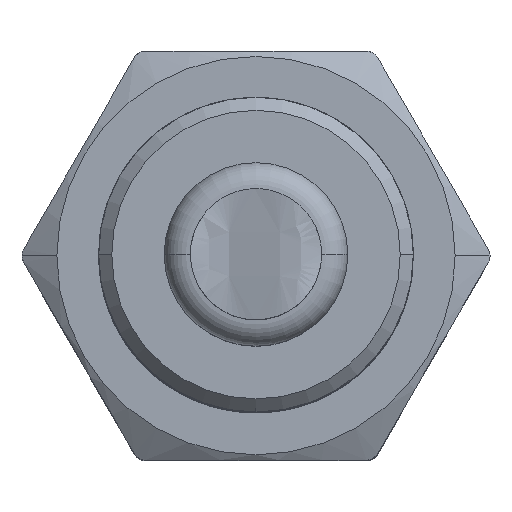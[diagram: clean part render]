
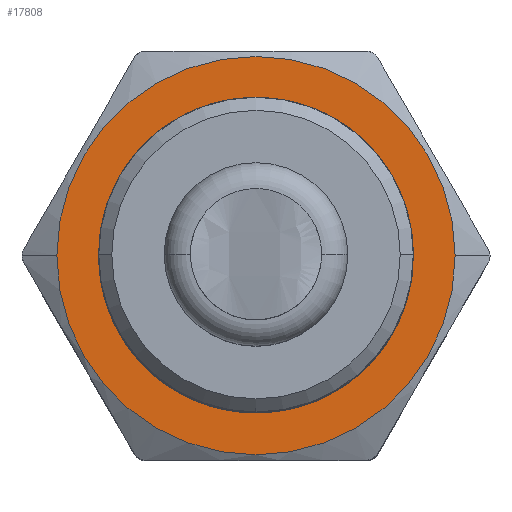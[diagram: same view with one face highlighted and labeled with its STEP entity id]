
A CAD part, top view. The second image highlights one B-rep face of the part: STEP entity #17808.
In plain terms, the highlighted planar face has unit normal (0, 0, 1).
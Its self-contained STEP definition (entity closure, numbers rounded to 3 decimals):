
#16777=CARTESIAN_POINT('',(0.,0.,15.));
#16778=DIRECTION('',(0.,0.,1.));
#16779=DIRECTION('',(-1.,0.,0.));
#16780=AXIS2_PLACEMENT_3D('',#16777,#16778,#16779);
#16785=CARTESIAN_POINT('',(0.,0.,15.));
#16786=DIRECTION('',(0.,0.,1.));
#16787=DIRECTION('',(1.,0.,0.));
#16788=AXIS2_PLACEMENT_3D('',#16785,#16786,#16787);
#16793=CARTESIAN_POINT('',(0.,-5.541,15.));
#16794=CARTESIAN_POINT('',(-0.266,-5.554,15.));
#16795=CARTESIAN_POINT('',(-0.794,-5.542,15.));
#16796=CARTESIAN_POINT('',(-1.578,-5.412,15.));
#16797=CARTESIAN_POINT('',(-2.328,-5.176,15.));
#16798=CARTESIAN_POINT('',(-3.053,-4.831,15.));
#16799=CARTESIAN_POINT('',(-3.727,-4.384,15.));
#16800=CARTESIAN_POINT('',(-4.347,-3.831,15.));
#16801=CARTESIAN_POINT('',(-4.878,-3.197,15.));
#16802=CARTESIAN_POINT('',(-5.289,-2.539,15.));
#16803=CARTESIAN_POINT('',(-5.595,-1.87,15.));
#16804=CARTESIAN_POINT('',(-5.812,-1.189,15.));
#16805=CARTESIAN_POINT('',(-5.947,-0.479,15.));
#16806=CARTESIAN_POINT('',(-5.995,0.26,15.));
#16807=CARTESIAN_POINT('',(-5.966,0.752,15.));
#16808=CARTESIAN_POINT('',(-5.936,0.999,15.));
#16813=DIRECTION('',(0.,1.,0.));
#16814=VECTOR('',#16813,0.041);
#16815=CARTESIAN_POINT('',(0.,-5.541,15.));
#16816=LINE('',#16815,#16814);
#16820=CARTESIAN_POINT('',(0.,0.,15.));
#16821=DIRECTION('',(0.,0.,1.));
#16822=DIRECTION('',(0.,-1.,0.));
#16823=AXIS2_PLACEMENT_3D('',#16820,#16821,#16822);
#16828=CARTESIAN_POINT('',(-5.936,0.999,15.));
#16829=CARTESIAN_POINT('',(-5.876,1.277,15.));
#16830=CARTESIAN_POINT('',(-5.718,1.819,15.));
#16831=CARTESIAN_POINT('',(-5.367,2.595,15.));
#16832=CARTESIAN_POINT('',(-4.91,3.312,15.));
#16833=CARTESIAN_POINT('',(-4.361,3.948,15.));
#16834=CARTESIAN_POINT('',(-3.725,4.502,15.));
#16835=CARTESIAN_POINT('',(-3.023,4.954,15.));
#16836=CARTESIAN_POINT('',(-2.254,5.305,15.));
#16837=CARTESIAN_POINT('',(-1.441,5.539,15.));
#16838=CARTESIAN_POINT('',(-0.614,5.65,15.));
#16839=CARTESIAN_POINT('',(0.222,5.638,15.));
#16840=CARTESIAN_POINT('',(1.034,5.505,15.));
#16841=CARTESIAN_POINT('',(1.82,5.254,15.));
#16842=CARTESIAN_POINT('',(2.308,5.015,15.));
#16843=CARTESIAN_POINT('',(2.544,4.876,15.));
#17510=CARTESIAN_POINT('',(-7.595,0.,15.));
#17511=CARTESIAN_POINT('',(7.595,0.,15.));
#17512=VERTEX_POINT('',#17510);
#17513=VERTEX_POINT('',#17511);
#17551=VERTEX_POINT('',#16793);
#17552=VERTEX_POINT('',#16808);
#17553=VERTEX_POINT('',#16843);
#17565=CARTESIAN_POINT('',(0.,-5.5,15.));
#17566=VERTEX_POINT('',#17565);
#17789=CARTESIAN_POINT('',(0.,0.,15.));
#17790=DIRECTION('',(0.,0.,1.));
#17791=DIRECTION('',(1.,0.,0.));
#17792=AXIS2_PLACEMENT_3D('',#17789,#17790,#17791);
#17793=PLANE('',#17792);
#17794=ORIENTED_EDGE('',*,*,#17756,.F.);
#17795=ORIENTED_EDGE('',*,*,#17772,.F.);
#17796=EDGE_LOOP('',(#17794,#17795));
#17797=FACE_OUTER_BOUND('',#17796,.F.);
#17799=ORIENTED_EDGE('',*,*,#17798,.F.);
#17801=ORIENTED_EDGE('',*,*,#17800,.T.);
#17803=ORIENTED_EDGE('',*,*,#17802,.T.);
#17805=ORIENTED_EDGE('',*,*,#17804,.F.);
#17806=EDGE_LOOP('',(#17799,#17801,#17803,#17805));
#17807=FACE_BOUND('',#17806,.F.);
#16781=CIRCLE('',#16780,7.595);
#16789=CIRCLE('',#16788,7.595);
#16809=B_SPLINE_CURVE_WITH_KNOTS('',3,(#16793,#16794,#16795,#16796,#16797,
#16798,#16799,#16800,#16801,#16802,#16803,#16804,#16805,#16806,#16807,#16808),
.UNSPECIFIED.,.F.,.F.,(4,1,1,1,1,1,1,1,1,1,1,1,1,4),(0.,0.077,
0.154,0.231,0.308,0.385,
0.462,0.538,0.615,0.692,
0.769,0.846,0.923,1.),.UNSPECIFIED.);
#16824=CIRCLE('',#16823,5.5);
#16844=B_SPLINE_CURVE_WITH_KNOTS('',3,(#16828,#16829,#16830,#16831,#16832,
#16833,#16834,#16835,#16836,#16837,#16838,#16839,#16840,#16841,#16842,#16843),
.UNSPECIFIED.,.F.,.F.,(4,1,1,1,1,1,1,1,1,1,1,1,1,4),(0.,0.077,
0.154,0.231,0.308,0.385,
0.462,0.538,0.615,0.692,
0.769,0.846,0.923,1.),.UNSPECIFIED.);
#17756=EDGE_CURVE('',#17512,#17513,#16781,.T.);
#17772=EDGE_CURVE('',#17513,#17512,#16789,.T.);
#17798=EDGE_CURVE('',#17551,#17552,#16809,.T.);
#17800=EDGE_CURVE('',#17551,#17566,#16816,.T.);
#17802=EDGE_CURVE('',#17566,#17553,#16824,.T.);
#17804=EDGE_CURVE('',#17552,#17553,#16844,.T.);
#17808=ADVANCED_FACE('',(#17797,#17807),#17793,.T.);
